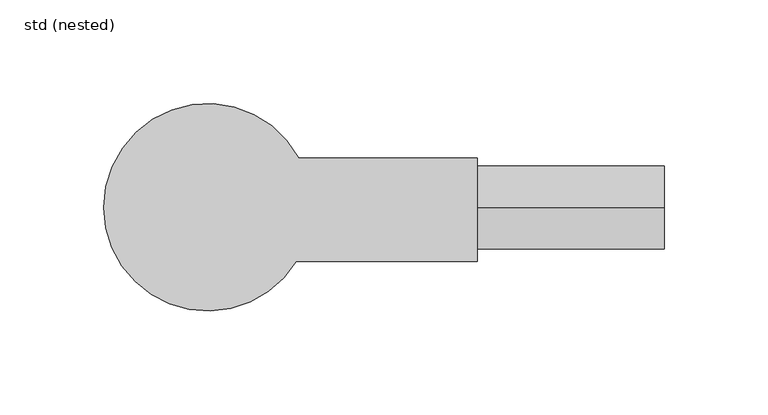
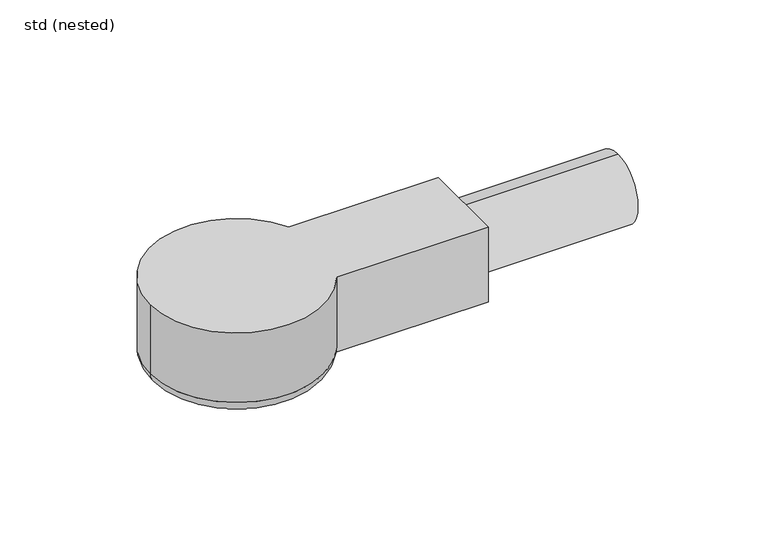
"""IFC4 building model written with IfcOpenShell, lengths in millimetres: pipe fitting geometry, ZZZ_do not use_PIF_GEN_WPB_gully for showerdrain M series watertrap 25_ACO : std (nested)."""

from ifc_helpers import new_model, si_unit, point, frame, origin, origin_with_axes, place, context, project, spatial, polyline, circle_curve, ellipse_curve, trimmed, source, transform, mapped, element, save
from ifc_brep_helpers import plane_surface, cylinder_surface, revolved_surface, advanced_brep


def std_nested_3c4184f0(model_context):
    return source(origin(), model_context, "Body", "AdvancedBrep", [
        advanced_brep(
        [(43.9324202, 23.8734675, 0.0), (-50.0, 0.0, 0.0), (42.6310251, -26.1265325, 0.0), (130.0, -26.1265325, 0.0), (130.0, 23.8734675, 0.0), (-42.395353, 0.0, -50.0625), (42.395353, 0.0, -50.0625), (0.0, 0.0, -50.0625), (-50.0, 0.0, -42.457853), (43.9324202, 23.8734675, -42.457853), (50.0, 0.0, -42.457853), (42.6310251, -26.1265325, -42.457853), (130.0, 23.8734675, -45.6483671), (130.0, -26.1265325, -45.6483671), (42.6310251, -26.1265325, -45.6483671), (50.0, 0.0, -45.6483671), (43.9324202, 23.8734675, -45.6483671)],
        [
            (0, 1, circle_curve(origin_with_axes(), 50.0)),
            (1, 2, circle_curve(origin_with_axes(), 50.0)),
            (2, 3),
            (3, 4),
            (4, 0),
            (5, 6, circle_curve(frame((0.0, 0.0, -50.0625), z_axis=(0.0, 0.0, -1.0), x_axis=(1.0, 0.0, 0.0)), 42.395353)),
            (6, 7),
            (7, 5),
            (6, 5, circle_curve(frame((0.0, 0.0, -50.0625), z_axis=(0.0, 0.0, -1.0), x_axis=(1.0, 0.0, 0.0)), 42.395353)),
            (5, 8, circle_curve(frame((-42.395353, 0.0, -42.457853), z_axis=(0.0, 1.0, 0.0), x_axis=(-1.0, 0.0, 0.0)), 7.604647)),
            (8, 9, circle_curve(frame((0.0, 0.0, -42.457853), z_axis=(0.0, 0.0, -1.0), x_axis=(1.0, 0.0, 0.0)), 50.0)),
            (9, 10, circle_curve(frame((0.0, 0.0, -42.457853), z_axis=(0.0, 0.0, -1.0), x_axis=(1.0, 0.0, 0.0)), 50.0)),
            (10, 6, circle_curve(frame((42.395353, 0.0, -42.457853), z_axis=(0.0, 1.0, 0.0), x_axis=(1.0, 0.0, 0.0)), 7.604647)),
            (10, 11, circle_curve(frame((0.0, 0.0, -42.457853), z_axis=(0.0, 0.0, -1.0), x_axis=(1.0, 0.0, 0.0)), 50.0)),
            (11, 8, circle_curve(frame((0.0, 0.0, -42.457853), z_axis=(0.0, 0.0, -1.0), x_axis=(1.0, 0.0, 0.0)), 50.0)),
            (8, 1),
            (0, 9),
            (11, 2),
            (12, 13),
            (13, 14),
            (14, 15, circle_curve(frame((0.0, 0.0, -45.6483671), z_axis=(0.0, 0.0, 1.0), x_axis=(1.0, 0.0, 0.0)), 50.0)),
            (15, 16, circle_curve(frame((0.0, 0.0, -45.6483671), z_axis=(0.0, 0.0, 1.0), x_axis=(1.0, 0.0, 0.0)), 50.0)),
            (16, 12),
            (4, 12),
            (16, 9),
            (11, 14),
            (13, 3),
            (15, 10),
        ],
        [
            plane_surface(origin_with_axes()),
            plane_surface(frame((0.0, 0.0, -50.0625), z_axis=(0.0, 0.0, -1.0), x_axis=(1.0, 0.0, 0.0))),
            revolved_surface(trimmed(ellipse_curve(frame((42.395353, 0.0, -42.457853), z_axis=(0.0, -1.0, 0.0), x_axis=(1.0, 0.0, 0.0)), 7.604647, 7.604647), [point((42.395353, 0.0, -50.0625))], [point((50.0, 0.0, -42.457853))], True, "CARTESIAN"), (0.0, 0.0, 60.0), (0.0, 0.0, 1.0)),
            cylinder_surface(frame((0.0, 0.0, 60.0), z_axis=(0.0, 0.0, 1.0), x_axis=(1.0, 0.0, 0.0)), 50.0),
            plane_surface(frame((43.9324202, 23.8734675, -45.6483671), z_axis=(0.0, 0.0, -1.0), x_axis=(1.0, 0.0, 0.0))),
            plane_surface(frame((130.0, 23.8734675, 0.0), z_axis=(0.0, 1.0, 0.0), x_axis=(0.0, 0.0, -1.0))),
            plane_surface(frame((42.6310251, -26.1265325, 0.0), z_axis=(0.0, -1.0, 0.0), x_axis=(0.0, 0.0, -1.0))),
            plane_surface(frame((130.0, -26.1265325, 0.0), z_axis=(1.0, 0.0, 0.0), x_axis=(0.0, 0.0, -1.0))),
            revolved_surface(polyline([(50.0, 0.0, -45.6483671), (50.0, 0.0, -42.457853)]), (0.0, 0.0, -45.6483671), (0.0, 0.0, -1.0)),
        ],
        [
            (0, [[1, 2, 3, 4, 5]]),
            (1, [[6, 7, 8]]),
            (1, [[-7, 9, -8]]),
            (2, [[-6, 10, 11, 12, 13]]),
            (2, [[-9, -13, 14, 15, -10]]),
            (3, [[16, -1, 17, -11]]),
            (3, [[-16, -15, 18, -2]]),
            (4, [[19, 20, 21, 22, 23]]),
            (5, [[-5, 24, -23, 25, -17]]),
            (6, [[-3, -18, 26, -20, 27]]),
            (7, [[-4, -27, -19, -24]]),
            (8, [[-22, 28, -12, -25]]),
            (8, [[-21, -26, -14, -28]]),
        ],
    ),
        advanced_brep(
        [(220.0, 0.0, -22.8298895), (220.0, 0.0, -42.8298895), (220.0, 0.0, -2.8298895), (130.0, 0.0, -2.8298895), (130.0, 0.0, -42.8298895), (130.0, 0.0, -22.8298895)],
        [
            (0, 1),
            (1, 2, circle_curve(frame((220.0, 0.0, -22.8298895), z_axis=(1.0, 0.0, 0.0), x_axis=(0.0, 0.0, -1.0)), 20.0)),
            (2, 0),
            (2, 1, circle_curve(frame((220.0, 0.0, -22.8298895), z_axis=(1.0, 0.0, 0.0), x_axis=(0.0, 0.0, -1.0)), 20.0)),
            (3, 4, circle_curve(frame((130.0, 0.0, -22.8298895), z_axis=(-1.0, 0.0, 0.0), x_axis=(0.0, 0.0, -1.0)), 20.0)),
            (4, 5),
            (5, 3),
            (4, 3, circle_curve(frame((130.0, 0.0, -22.8298895), z_axis=(-1.0, 0.0, 0.0), x_axis=(0.0, 0.0, -1.0)), 20.0)),
            (1, 4),
            (3, 2),
        ],
        [
            plane_surface(frame((220.0, 0.0, -22.8298895), z_axis=(1.0, 0.0, 0.0), x_axis=(0.0, 0.0, -1.0))),
            plane_surface(frame((130.0, 0.0, -22.8298895), z_axis=(-1.0, 0.0, 0.0), x_axis=(0.0, 0.0, -1.0))),
            cylinder_surface(frame((51.7262536, 0.0, -22.8298895), z_axis=(1.0, 0.0, 0.0), x_axis=(0.0, 0.0, -1.0)), 20.0),
        ],
        [
            (0, [[1, 2, 3]]),
            (0, [[-3, 4, -1]]),
            (1, [[5, 6, 7]]),
            (1, [[8, -7, -6]]),
            (2, [[-2, 9, -5, 10]]),
            (2, [[-4, -10, -8, -9]]),
        ],
    ),
    ])


if __name__ == "__main__":
    model = new_model("IFC4")
    model_context = context("Model", 3, world=origin())
    ifc_project = project(units=[si_unit("LENGTHUNIT", "METRE", prefix="MILLI")], contexts=[model_context])
    site = spatial("IfcSite", under=ifc_project)
    building = spatial("IfcBuilding", under=site)
    placement = place(None, origin())
    std_nested_shape = std_nested_3c4184f0(model_context)
    element("IfcPipeFitting", 1, ObjectType="ZZZ_do not use_PIF_GEN_WPB_gully for showerdrain M series watertrap 25_ACO : std (nested)", at=placement, inside=building, context=model_context, shape_type="MappedRepresentation", body=[
        mapped(std_nested_shape, transform((0.0, 0.0, 0.0), x_axis=(1.0, 0.0, 0.0), y_axis=(0.0, 1.0, 0.0), z_axis=(0.0, 0.0, 1.0))),
    ])
    save(model, "model.ifc")
